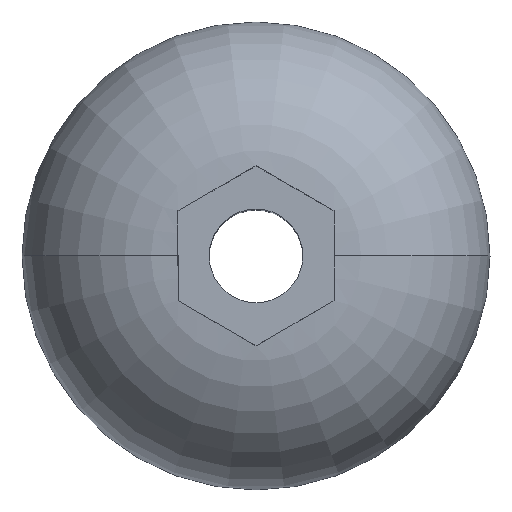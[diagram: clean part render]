
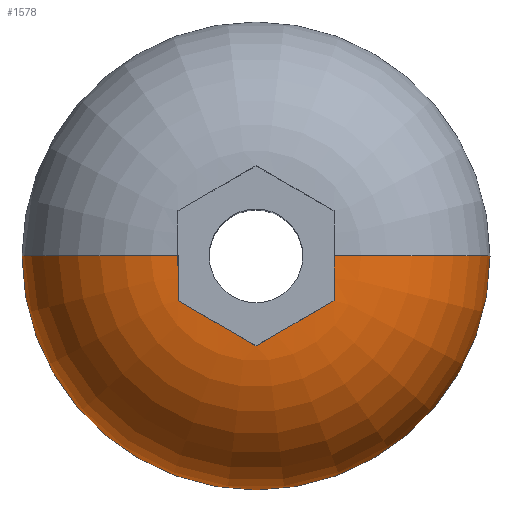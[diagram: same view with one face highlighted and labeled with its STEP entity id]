
A CAD part, top view. The second image highlights one B-rep face of the part: STEP entity #1578.
In plain terms, the highlighted toroidal (fillet/blend) face has major radius 0.75 mm and minor radius 1.5 mm.
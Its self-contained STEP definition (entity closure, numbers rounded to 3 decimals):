
#29 = CARTESIAN_POINT ( 'NONE',  ( -0.75, 0., 1.5 ) ) ;
#46 = EDGE_CURVE ( 'NONE', #326, #786, #828, .T. ) ;
#61 = CARTESIAN_POINT ( 'NONE',  ( 0.125, -0.794, 1.501 ) ) ;
#130 = CARTESIAN_POINT ( 'NONE',  ( 0., -0.866, 1.496 ) ) ;
#136 = CARTESIAN_POINT ( 'NONE',  ( 2.25, 0., 0. ) ) ;
#151 = ORIENTED_EDGE ( 'NONE', *, *, #1245, .T. ) ;
#183 = CARTESIAN_POINT ( 'NONE',  ( 0.625, -0.505, 1.501 ) ) ;
#260 = CARTESIAN_POINT ( 'NONE',  ( -0.625, -0.505, 1.501 ) ) ;
#267 = DIRECTION ( 'NONE',  ( 0., 1., 0. ) ) ;
#326 = VERTEX_POINT ( 'NONE', #674 ) ;
#329 = DIRECTION ( 'NONE',  ( 0., 0., 1. ) ) ;
#330 = ORIENTED_EDGE ( 'NONE', *, *, #1169, .T. ) ;
#343 = VERTEX_POINT ( 'NONE', #802 ) ;
#354 = CARTESIAN_POINT ( 'NONE',  ( 0.75, -0.289, 1.499 ) ) ;
#380 = CARTESIAN_POINT ( 'NONE',  ( -0.75, -0.289, 1.499 ) ) ;
#413 = VERTEX_POINT ( 'NONE', #1459 ) ;
#447 = CIRCLE ( 'NONE', #771, 1.5 ) ;
#460 = CARTESIAN_POINT ( 'NONE',  ( 0.75, -0.433, 1.496 ) ) ;
#482 = CARTESIAN_POINT ( 'NONE',  ( 0.75, -0.433, 1.496 ) ) ;
#521 = AXIS2_PLACEMENT_3D ( 'NONE', #1129, #329, #964 ) ;
#524 = CARTESIAN_POINT ( 'NONE',  ( 0., -0.866, 1.496 ) ) ;
#580 = CARTESIAN_POINT ( 'NONE',  ( 0.75, 0., 0. ) ) ;
#606 = B_SPLINE_CURVE_WITH_KNOTS ( 'NONE', 3,
 ( #896, #1259, #380, #1028, #757, #1271 ),
 .UNSPECIFIED., .F., .F.,
 ( 4, 2, 4 ),
 ( 0.011, 0.012, 0.012 ),
 .UNSPECIFIED. ) ;
#608 = CIRCLE ( 'NONE', #1015, 1.5 ) ;
#611 = ORIENTED_EDGE ( 'NONE', *, *, #677, .F. ) ;
#624 = EDGE_LOOP ( 'NONE', ( #611, #1012, #808, #1409, #1573, #151, #330 ) ) ;
#674 = CARTESIAN_POINT ( 'NONE',  ( 0.75, 0., 1.5 ) ) ;
#677 = EDGE_CURVE ( 'NONE', #343, #853, #608, .T. ) ;
#691 = CARTESIAN_POINT ( 'NONE',  ( 0.75, -0.433, 1.496 ) ) ;
#693 = DIRECTION ( 'NONE',  ( 0., -1., 0. ) ) ;
#712 = TOROIDAL_SURFACE ( 'NONE', #521, 0.75, 1.5 ) ;
#717 = CARTESIAN_POINT ( 'NONE',  ( 0.75, 0., 1.5 ) ) ;
#729 = CARTESIAN_POINT ( 'NONE',  ( 0.75, -0.361, 1.498 ) ) ;
#741 = VERTEX_POINT ( 'NONE', #130 ) ;
#757 = CARTESIAN_POINT ( 'NONE',  ( -0.75, -0.071, 1.5 ) ) ;
#771 = AXIS2_PLACEMENT_3D ( 'NONE', #580, #693, #1321 ) ;
#777 = DIRECTION ( 'NONE',  ( -1., 0., 0. ) ) ;
#786 = VERTEX_POINT ( 'NONE', #691 ) ;
#802 = CARTESIAN_POINT ( 'NONE',  ( -2.25, 0., 0. ) ) ;
#808 = ORIENTED_EDGE ( 'NONE', *, *, #979, .T. ) ;
#810 = DIRECTION ( 'NONE',  ( 1., 0., 0. ) ) ;
#828 = B_SPLINE_CURVE_WITH_KNOTS ( 'NONE', 3,
 ( #717, #1604, #1228, #354, #729, #482 ),
 .UNSPECIFIED., .F., .F.,
 ( 4, 2, 4 ),
 ( 0., 0., 0. ),
 .UNSPECIFIED. ) ;
#853 = VERTEX_POINT ( 'NONE', #29 ) ;
#856 = EDGE_CURVE ( 'NONE', #343, #1273, #1306, .T. ) ;
#896 = CARTESIAN_POINT ( 'NONE',  ( -0.75, -0.433, 1.496 ) ) ;
#918 = CARTESIAN_POINT ( 'NONE',  ( -0.75, -0.433, 1.496 ) ) ;
#922 = AXIS2_PLACEMENT_3D ( 'NONE', #1435, #1561, #810 ) ;
#935 = CARTESIAN_POINT ( 'NONE',  ( -0.375, -0.65, 1.499 ) ) ;
#940 = B_SPLINE_CURVE_WITH_KNOTS ( 'NONE', 3,
 ( #524, #1130, #935, #260, #918 ),
 .UNSPECIFIED., .F., .F.,
 ( 4, 1, 4 ),
 ( 0., 0., 0.001 ),
 .UNSPECIFIED. ) ;
#964 = DIRECTION ( 'NONE',  ( 1., 0., 0. ) ) ;
#979 = EDGE_CURVE ( 'NONE', #1273, #326, #447, .T. ) ;
#988 = B_SPLINE_CURVE_WITH_KNOTS ( 'NONE', 3,
 ( #460, #183, #1373, #61, #1461 ),
 .UNSPECIFIED., .F., .F.,
 ( 4, 1, 4 ),
 ( 0., 0., 0.001 ),
 .UNSPECIFIED. ) ;
#1012 = ORIENTED_EDGE ( 'NONE', *, *, #856, .T. ) ;
#1015 = AXIS2_PLACEMENT_3D ( 'NONE', #1398, #267, #777 ) ;
#1028 = CARTESIAN_POINT ( 'NONE',  ( -0.75, -0.144, 1.5 ) ) ;
#1129 = CARTESIAN_POINT ( 'NONE',  ( 0., 0., 0. ) ) ;
#1130 = CARTESIAN_POINT ( 'NONE',  ( -0.125, -0.794, 1.501 ) ) ;
#1169 = EDGE_CURVE ( 'NONE', #413, #853, #606, .T. ) ;
#1228 = CARTESIAN_POINT ( 'NONE',  ( 0.75, -0.144, 1.5 ) ) ;
#1245 = EDGE_CURVE ( 'NONE', #741, #413, #940, .T. ) ;
#1247 = FACE_OUTER_BOUND ( 'NONE', #624, .T. ) ;
#1259 = CARTESIAN_POINT ( 'NONE',  ( -0.75, -0.361, 1.498 ) ) ;
#1271 = CARTESIAN_POINT ( 'NONE',  ( -0.75, 0., 1.5 ) ) ;
#1273 = VERTEX_POINT ( 'NONE', #136 ) ;
#1306 = CIRCLE ( 'NONE', #922, 2.25 ) ;
#1321 = DIRECTION ( 'NONE',  ( 0., 0., -1. ) ) ;
#1373 = CARTESIAN_POINT ( 'NONE',  ( 0.375, -0.65, 1.499 ) ) ;
#1398 = CARTESIAN_POINT ( 'NONE',  ( -0.75, 0., 0. ) ) ;
#1409 = ORIENTED_EDGE ( 'NONE', *, *, #46, .T. ) ;
#1435 = CARTESIAN_POINT ( 'NONE',  ( 0., 0., 0. ) ) ;
#1459 = CARTESIAN_POINT ( 'NONE',  ( -0.75, -0.433, 1.496 ) ) ;
#1461 = CARTESIAN_POINT ( 'NONE',  ( 0., -0.866, 1.496 ) ) ;
#1561 = DIRECTION ( 'NONE',  ( 0., 0., 1. ) ) ;
#1573 = ORIENTED_EDGE ( 'NONE', *, *, #1576, .T. ) ;
#1576 = EDGE_CURVE ( 'NONE', #786, #741, #988, .T. ) ;
#1578 = ADVANCED_FACE ( 'NONE', ( #1247 ), #712, .T. ) ;
#1604 = CARTESIAN_POINT ( 'NONE',  ( 0.75, -0.072, 1.5 ) ) ;
